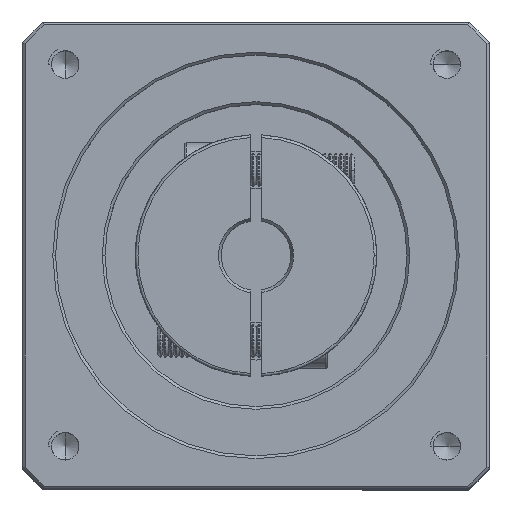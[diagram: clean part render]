
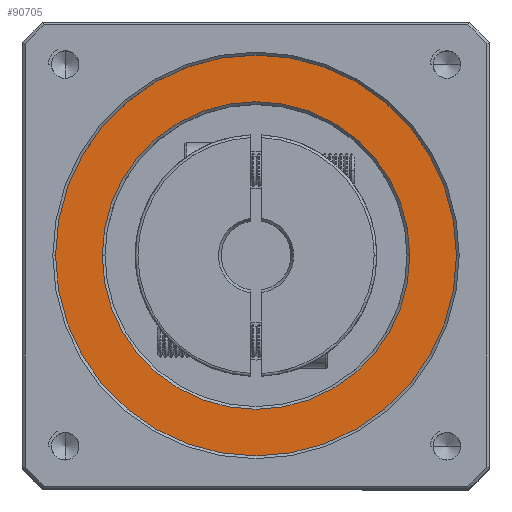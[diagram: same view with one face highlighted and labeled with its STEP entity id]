
A CAD part, top view. The second image highlights one B-rep face of the part: STEP entity #90705.
In plain terms, the highlighted planar face has unit normal (0, 0, 1).
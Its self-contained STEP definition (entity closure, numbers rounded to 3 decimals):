
#3520 = DIRECTION ( 'NONE',  ( 0., 0., -1. ) ) ;
#4547 = CARTESIAN_POINT ( 'NONE',  ( -10.304, 7.876, 176.5 ) ) ;
#6054 = CARTESIAN_POINT ( 'NONE',  ( -38.304, 7.876, 176.5 ) ) ;
#7692 = CIRCLE ( 'NONE', #19027, 28. ) ;
#12791 = DIRECTION ( 'NONE',  ( 1., 0., 0. ) ) ;
#16229 = VERTEX_POINT ( 'NONE', #6054 ) ;
#18560 = CIRCLE ( 'NONE', #56214, 28. ) ;
#19027 = AXIS2_PLACEMENT_3D ( 'NONE', #73699, #24412, #81956 ) ;
#21226 = CARTESIAN_POINT ( 'NONE',  ( 26.196, 7.876, 176.5 ) ) ;
#24412 = DIRECTION ( 'NONE',  ( 0., 0., -1. ) ) ;
#28577 = FACE_OUTER_BOUND ( 'NONE', #62717, .T. ) ;
#30888 = PLANE ( 'NONE',  #79990 ) ;
#31238 = CARTESIAN_POINT ( 'NONE',  ( -10.304, 7.876, 176.5 ) ) ;
#38690 = ORIENTED_EDGE ( 'NONE', *, *, #94116, .T. ) ;
#39513 = DIRECTION ( 'NONE',  ( 1., 0., 0. ) ) ;
#48175 = AXIS2_PLACEMENT_3D ( 'NONE', #4547, #62005, #12791 ) ;
#49161 = CARTESIAN_POINT ( 'NONE',  ( -10.304, 7.876, 176.5 ) ) ;
#50966 = EDGE_CURVE ( 'NONE', #72242, #57806, #97067, .T. ) ;
#52783 = CARTESIAN_POINT ( 'NONE',  ( -10.304, 7.876, 176.5 ) ) ;
#56214 = AXIS2_PLACEMENT_3D ( 'NONE', #52783, #3520, #60982 ) ;
#57394 = DIRECTION ( 'NONE',  ( 1., 0., 0. ) ) ;
#57806 = VERTEX_POINT ( 'NONE', #103814 ) ;
#60982 = DIRECTION ( 'NONE',  ( 1., 0., 0. ) ) ;
#62005 = DIRECTION ( 'NONE',  ( 0., 0., 1. ) ) ;
#62717 = EDGE_LOOP ( 'NONE', ( #78838, #102558 ) ) ;
#63450 = AXIS2_PLACEMENT_3D ( 'NONE', #49161, #106632, #57394 ) ;
#66345 = EDGE_LOOP ( 'NONE', ( #80478, #38690 ) ) ;
#72221 = CARTESIAN_POINT ( 'NONE',  ( 17.696, 7.876, 176.5 ) ) ;
#72242 = VERTEX_POINT ( 'NONE', #21226 ) ;
#73699 = CARTESIAN_POINT ( 'NONE',  ( -10.304, 7.876, 176.5 ) ) ;
#78838 = ORIENTED_EDGE ( 'NONE', *, *, #50966, .T. ) ;
#78983 = EDGE_CURVE ( 'NONE', #57806, #72242, #92277, .T. ) ;
#79990 = AXIS2_PLACEMENT_3D ( 'NONE', #31238, #88740, #39513 ) ;
#80478 = ORIENTED_EDGE ( 'NONE', *, *, #103326, .T. ) ;
#81956 = DIRECTION ( 'NONE',  ( 1., 0., 0. ) ) ;
#88740 = DIRECTION ( 'NONE',  ( 0., 0., 1. ) ) ;
#90705 = ADVANCED_FACE ( 'NONE', ( #28577, #94209 ), #30888, .T. ) ;
#92277 = CIRCLE ( 'NONE', #63450, 36.5 ) ;
#94116 = EDGE_CURVE ( 'NONE', #16229, #95857, #7692, .T. ) ;
#94209 = FACE_BOUND ( 'NONE', #66345, .T. ) ;
#95857 = VERTEX_POINT ( 'NONE', #72221 ) ;
#97067 = CIRCLE ( 'NONE', #48175, 36.5 ) ;
#102558 = ORIENTED_EDGE ( 'NONE', *, *, #78983, .T. ) ;
#103326 = EDGE_CURVE ( 'NONE', #95857, #16229, #18560, .T. ) ;
#103814 = CARTESIAN_POINT ( 'NONE',  ( -46.804, 7.876, 176.5 ) ) ;
#106632 = DIRECTION ( 'NONE',  ( 0., 0., 1. ) ) ;
